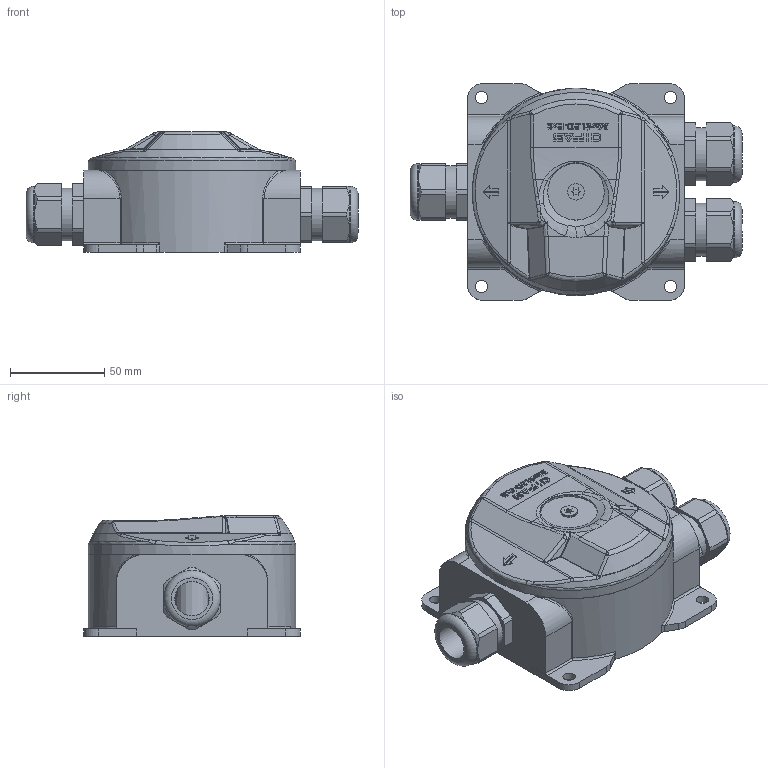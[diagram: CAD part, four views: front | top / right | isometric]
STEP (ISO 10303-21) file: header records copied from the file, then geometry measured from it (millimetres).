
FILE_DESCRIPTION(/* description */ ('Unknown'),/* implementation_level */ '2;1');
FILE_NAME(/* name */ 'MarkLed exit mit AP Adapter 60',/* time_stamp */ '2018-02-23T14:06:12+01:00',/* author */ ('phwa'),/* organization */ ('Gifas Electric'),/* preprocessor_version */ 'ST-DEVELOPER v16.7',/* originating_system */ 'DEX',/* authorisation */ $);
FILE_SCHEMA (('AUTOMOTIVE_DESIGN {1 0 10303 214 3 1 1}'));
Length unit declared in the file: millimetre
Products named in the file (6): MarkLed exit mit AP Adapter 60; 144091_b; M25_Messing; 860326_00_X_206_MarkLED_Exit_Leuchtmodul_oa_0; 165720_X_206_Abdeckhaube_MarkLED_EXIT_b; 165000_X_197_PT40x35_SK_Zentrumsschraube_MarkLED4
Assembly tree (7 placements, depth 3):
  MarkLed exit mit AP Adapter 60
    144091_b
    M25_Messing  x3
    860326_00_X_206_MarkLED_Exit_Leuchtmodul_oa_0
      165720_X_206_Abdeckhaube_MarkLED_EXIT_b
      165000_X_197_PT40x35_SK_Zentrumsschraube_MarkLED4
Bounding box: 176 x 115 x 63.95 mm (x, y, z)
Volume: 292929.3 mm3; surface area: 114103.4 mm2
Topology: 6 solids, 6 shells, 1093 faces, 2913 edges, 1882 vertices
Faces by surface type: plane 623, bspline 187, cylinder 138, cone 101, torus 38, sphere 6
Full cylindrical faces by diameter (mm): 4 x1, 4.134 x2, 6.5 x4, 8.8 x1, 18.3 x3, 23.376 x5, 25 x3, 28 x3, 30 x3, 96.8 x1, 101 x1
Entity records: 36094 total; most frequent: CARTESIAN_POINT 11575, ORIENTED_EDGE 5220, DIRECTION 4209, EDGE_CURVE 2610, VERTEX_POINT 1726, LINE 1549, VECTOR 1549, AXIS2_PLACEMENT_3D 1330
